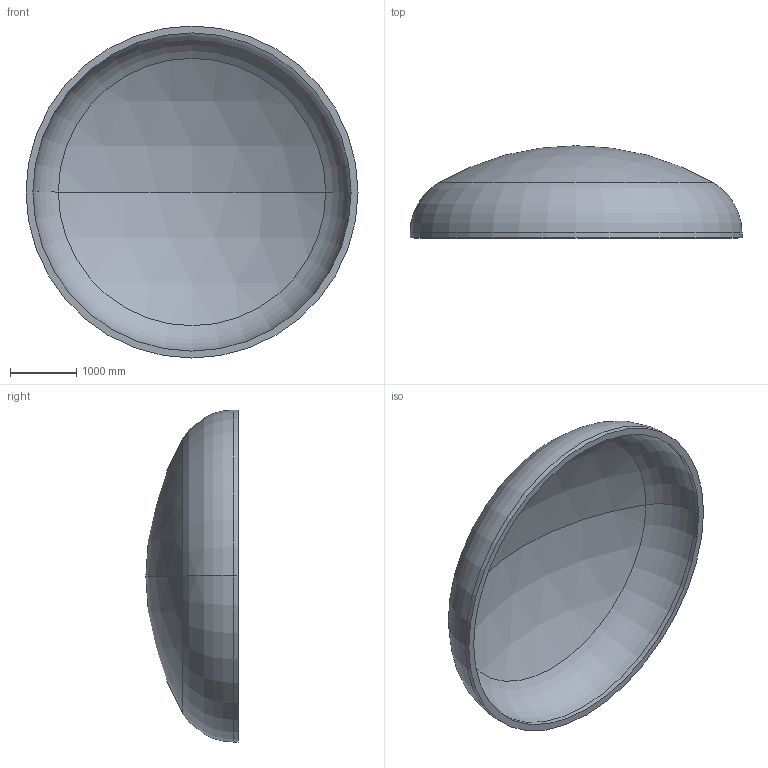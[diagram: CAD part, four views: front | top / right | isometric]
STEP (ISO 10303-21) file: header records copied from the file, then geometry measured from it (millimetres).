
FILE_DESCRIPTION (( 'STEP AP203' ), '1' );
FILE_NAME ('DIN 28013 Korbbogenform_-_Boden DIN 28013 - 5000 x 75 - I - s=104.step', '2016-07-02T00:57:14', ( '' ), ( '' ), 'SwSTEP 2.0', 'SolidWorks 2013', '' );
FILE_SCHEMA (( 'CONFIG_CONTROL_DESIGN' ));
Length unit declared in the file: millimetre
Products named in the file (1): DIN 28013 Korbbogenform_-_Boden DIN 28013 - 5000 x 75 - I - s=104
Bounding box: 5000 x 1388.12 x 5000 mm (x, y, z)
Volume: 2871811162.5 mm3; surface area: 56849419.3 mm2
Topology: 1 solids, 1 shells, 13 faces, 24 edges, 14 vertices
Faces by surface type: torus 4, cylinder 4, sphere 4, plane 1
Entity records: 407 total; most frequent: DIRECTION 72, CARTESIAN_POINT 52, ORIENTED_EDGE 48, AXIS2_PLACEMENT_3D 34, EDGE_CURVE 24, CIRCLE 20, EDGE_LOOP 14, VERTEX_POINT 14
